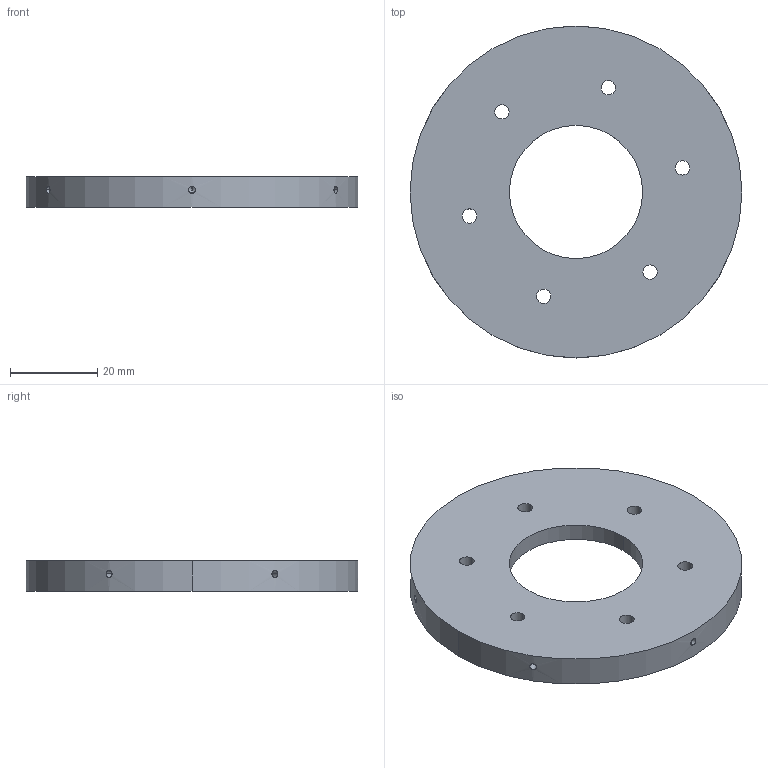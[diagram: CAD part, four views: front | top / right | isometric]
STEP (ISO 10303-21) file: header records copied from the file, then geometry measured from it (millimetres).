
FILE_DESCRIPTION (( 'STEP AP214' ), '1' );
FILE_NAME ('傷醱裔啣_inner_depth_3(1).STEP', '2026-05-09T05:14:22', ( '' ), ( '' ), 'SwSTEP 2.0', 'SolidWorks 2024', '' );
FILE_SCHEMA (( 'AUTOMOTIVE_DESIGN' ));
Length unit declared in the file: millimetre
Products named in the file (1): 端面盖板_inner_depth_3(1)
Bounding box: 76 x 76 x 7 mm (x, y, z)
Volume: 17041.7 mm3; surface area: 10570.6 mm2
Topology: 1 solids, 1 shells, 45 faces, 114 edges, 66 vertices
Faces by surface type: cylinder 30, cone 12, plane 3
Entity records: 1471 total; most frequent: CARTESIAN_POINT 382, DIRECTION 230, ORIENTED_EDGE 204, EDGE_CURVE 102, AXIS2_PLACEMENT_3D 94, VERTEX_POINT 66, EDGE_LOOP 66, CIRCLE 48
